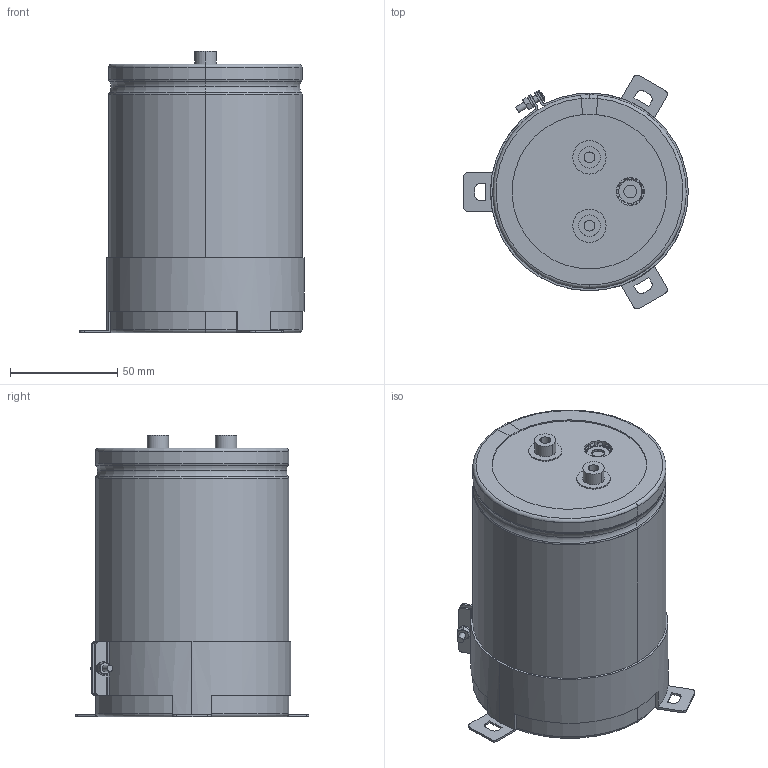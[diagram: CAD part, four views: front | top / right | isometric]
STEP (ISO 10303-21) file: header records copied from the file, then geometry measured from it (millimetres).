
FILE_DESCRIPTION(('STEP AP214'),'1');
FILE_NAME('90x125_Screw.stp','2022-03-14T08:11:20',(' '),(' '),'Spatial InterOp 3D',' ',' ');
FILE_SCHEMA(('AUTOMOTIVE_DESIGN { 1 0 10303 214 1 1 1 1 }'));
Length unit declared in the file: metre
Products named in the file (10): 90x125_Screw; Component1; Component2; Component3; Component4; Component5; Component6; Component7; Component8; Component9
Assembly tree (9 placements, depth 2):
  90x125_Screw
    Component1
    Component2
    Component3
    Component4
    Component5
    Component6
    Component7
    Component8
    Component9
Bounding box: 104.5 x 108.86 x 131 mm (x, y, z)
Volume: 797776 mm3; surface area: 145630.2 mm2
Topology: 9 solids, 9 shells, 352 faces, 873 edges, 551 vertices
Faces by surface type: plane 112, cylinder 110, torus 90, cone 38, sphere 2
Entity records: 11474 total; most frequent: DIRECTION 2126, CARTESIAN_POINT 1918, ORIENTED_EDGE 1746, AXIS2_PLACEMENT_3D 919, EDGE_CURVE 873, VERTEX_POINT 551, CIRCLE 511, EDGE_LOOP 380
